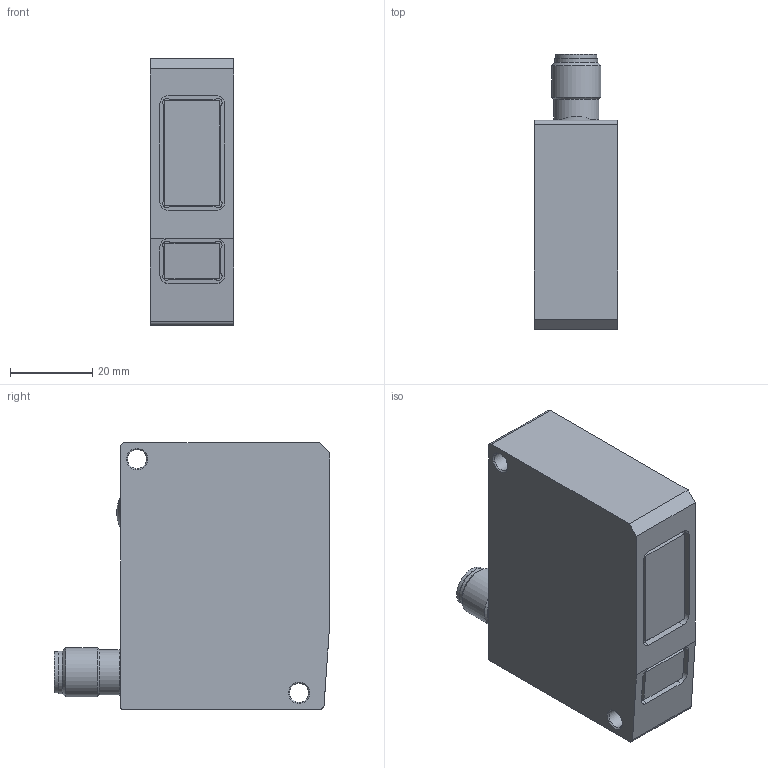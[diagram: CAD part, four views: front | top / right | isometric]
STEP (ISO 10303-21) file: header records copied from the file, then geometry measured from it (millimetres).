
FILE_DESCRIPTION(/* description */ ('Unknown'),/* implementation_level */ '2;1');
FILE_NAME(/* name */ 'OADR 20_S14F',/* time_stamp */ '2019-02-01T09:21:59+01:00',/* author */ ('Unknown'),/* organization */ ('Unknown'),/* preprocessor_version */ 'ST-DEVELOPER v16.7',/* originating_system */ 'DEX',/* authorisation */ $);
FILE_SCHEMA (('AUTOMOTIVE_DESIGN {1 0 10303 214 3 1 1}'));
Length unit declared in the file: millimetre
Products named in the file (1): OADR 20_S14F
Bounding box: 20.25 x 67.2 x 65 mm (x, y, z)
Volume: 65911.6 mm3; surface area: 13720.1 mm2
Topology: 1 solids, 1 shells, 185 faces, 521 edges, 340 vertices
Faces by surface type: plane 88, cylinder 80, sphere 9, cone 7, torus 1
Full cylindrical faces by diameter (mm): 0.8 x8, 4.6 x2, 8 x1, 8.3 x1, 10.05 x1, 10.3 x1, 10.4 x1, 11 x1, 12 x1, 16.03 x1
Entity records: 7022 total; most frequent: CARTESIAN_POINT 1046, DIRECTION 991, ORIENTED_EDGE 918, EDGE_CURVE 459, AXIS2_PLACEMENT_3D 351, VERTEX_POINT 321, LINE 289, VECTOR 289
